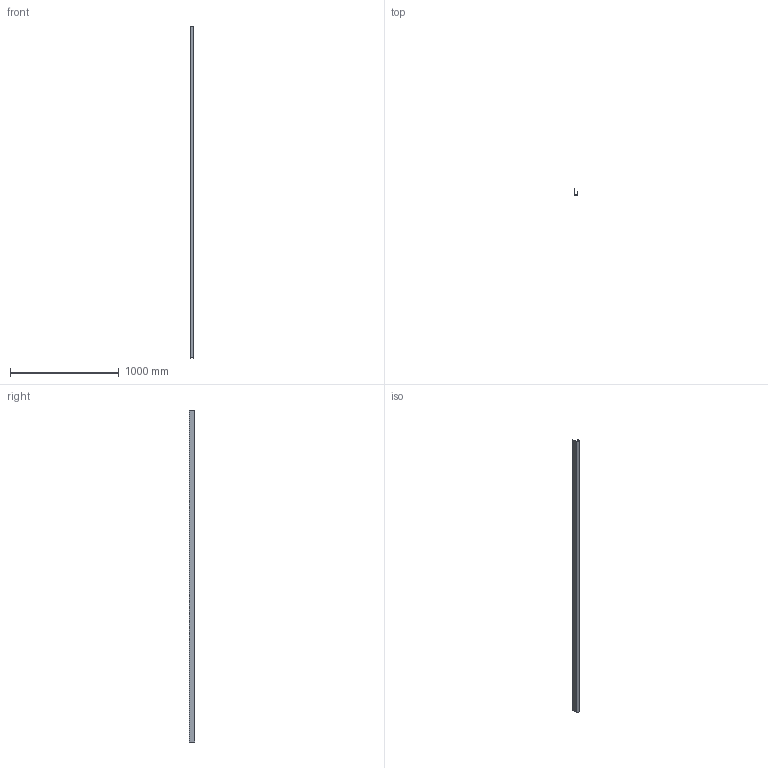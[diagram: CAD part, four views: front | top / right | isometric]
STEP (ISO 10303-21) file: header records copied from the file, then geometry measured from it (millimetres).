
FILE_DESCRIPTION (( 'STEP AP203' ), '1' );
FILE_NAME ('M01G.STEP', '2018-06-15T11:27:51', ( 'Michael Moliner' ), ( '' ), 'SwSTEP 2.0', 'SolidWorks 2018', '' );
FILE_SCHEMA (( 'CONFIG_CONTROL_DESIGN' ));
Length unit declared in the file: inch
Products named in the file (2): M01G
Bounding box: 30.04 x 51.59 x 3048 mm (x, y, z)
Volume: 183831.5 mm3; surface area: 726963.4 mm2
Topology: 1 solids, 1 shells, 18 faces, 48 edges, 32 vertices
Faces by surface type: plane 12, cylinder 6
Entity records: 721 total; most frequent: DIRECTION 100, CARTESIAN_POINT 100, ORIENTED_EDGE 96, EDGE_CURVE 48, LINE 36, VECTOR 36, AXIS2_PLACEMENT_3D 32, VERTEX_POINT 32
